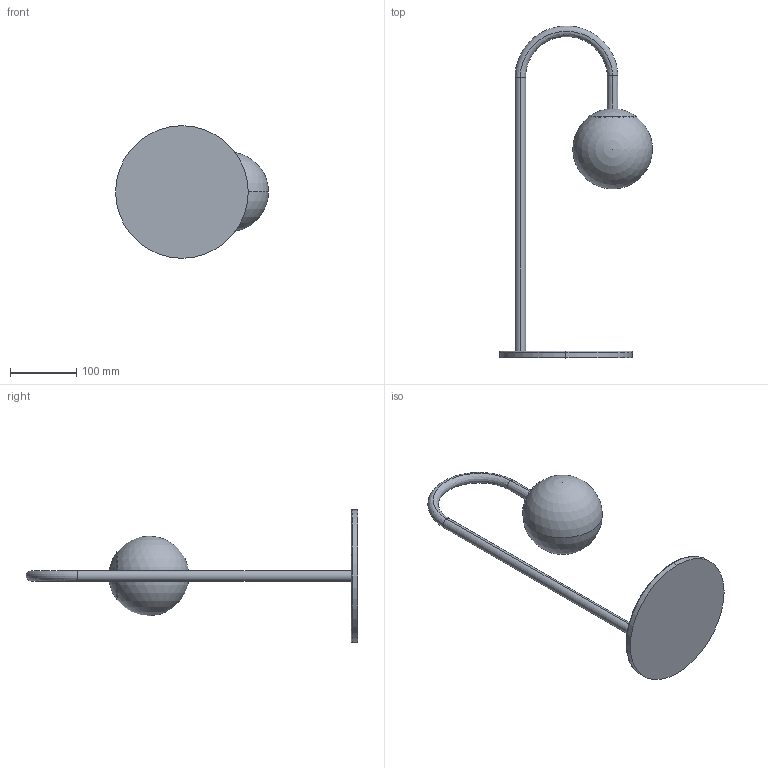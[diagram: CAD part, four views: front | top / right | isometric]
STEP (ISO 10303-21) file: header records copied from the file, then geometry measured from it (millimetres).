
FILE_DESCRIPTION (( 'STEP AP203' ), '1' );
FILE_NAME ('DECL2_Decor 1 tavolo.STEP', '2024-08-06T08:43:22', ( '' ), ( '' ), 'SwSTEP 2.0', 'SolidWorks 2022', '' );
FILE_SCHEMA (( 'CONFIG_CONTROL_DESIGN' ));
Length unit declared in the file: millimetre
Products named in the file (2): TAVOLO2; DECL2_Decor 1 tavolo
Assembly tree (1 placements, depth 2):
  DECL2_Decor 1 tavolo
    TAVOLO2
Bounding box: 230.44 x 500.26 x 200 mm (x, y, z)
Volume: 1358959 mm3; surface area: 147903 mm2
Topology: 1 solids, 1 shells, 19 faces, 41 edges, 24 vertices
Faces by surface type: cylinder 4, sphere 4, bspline 4, plane 3, torus 2, cone 2
Entity records: 858 total; most frequent: CARTESIAN_POINT 293, DIRECTION 90, ORIENTED_EDGE 72, AXIS2_PLACEMENT_3D 42, EDGE_CURVE 36, CIRCLE 23, VERTEX_POINT 21, EDGE_LOOP 21
